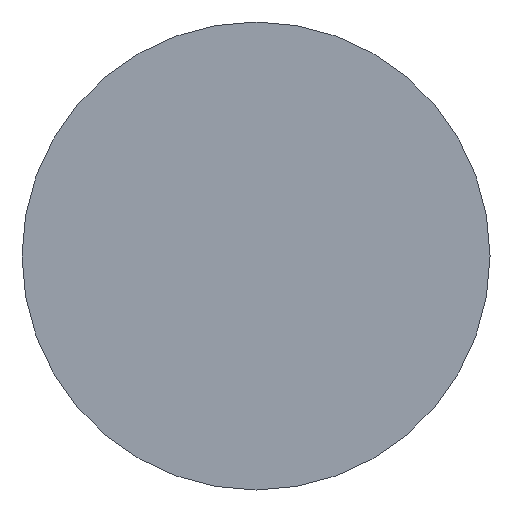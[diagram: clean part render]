
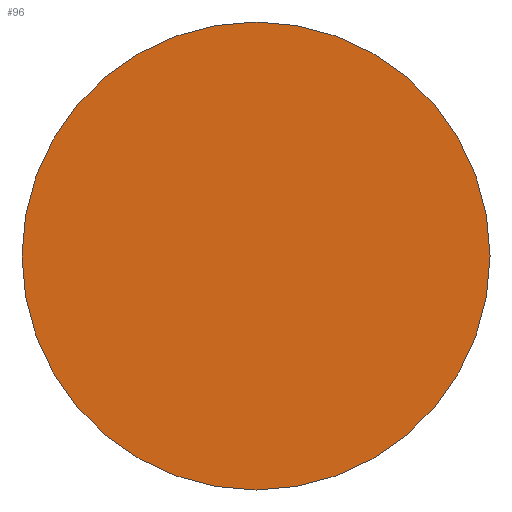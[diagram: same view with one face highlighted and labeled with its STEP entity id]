
A CAD part, front view. The second image highlights one B-rep face of the part: STEP entity #96.
In plain terms, the highlighted planar face has unit normal (0, -1, 0).
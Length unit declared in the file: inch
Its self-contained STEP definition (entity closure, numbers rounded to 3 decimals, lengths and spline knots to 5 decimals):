
#17=PLANE('',#126);
#28=FACE_OUTER_BOUND('',#34,.T.);
#34=EDGE_LOOP('',(#88));
#44=CIRCLE('',#125,0.25);
#52=VERTEX_POINT('',#186);
#64=EDGE_CURVE('',#52,#52,#44,.T.);
#88=ORIENTED_EDGE('',*,*,#64,.F.);
#96=ADVANCED_FACE('',(#28),#17,.F.);
#125=AXIS2_PLACEMENT_3D('',#188,#159,#160);
#126=AXIS2_PLACEMENT_3D('',#189,#161,#162);
#159=DIRECTION('center_axis',(0.,1.,0.));
#160=DIRECTION('ref_axis',(1.,0.,0.));
#161=DIRECTION('center_axis',(0.,1.,0.));
#162=DIRECTION('ref_axis',(1.,0.,0.));
#186=CARTESIAN_POINT('',(-0.25,0.,0.));
#188=CARTESIAN_POINT('Origin',(0.,0.,0.));
#189=CARTESIAN_POINT('Origin',(0.,0.,0.));
